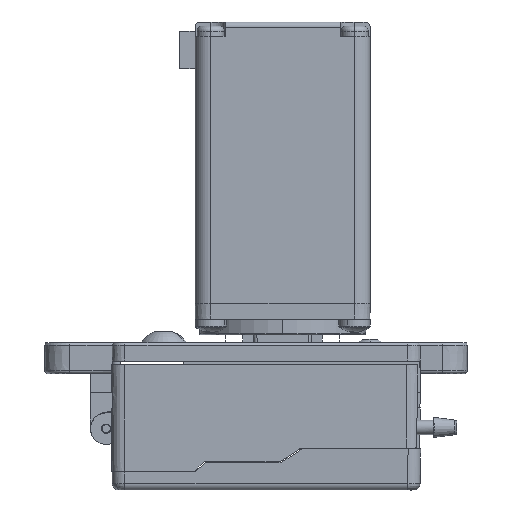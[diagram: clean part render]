
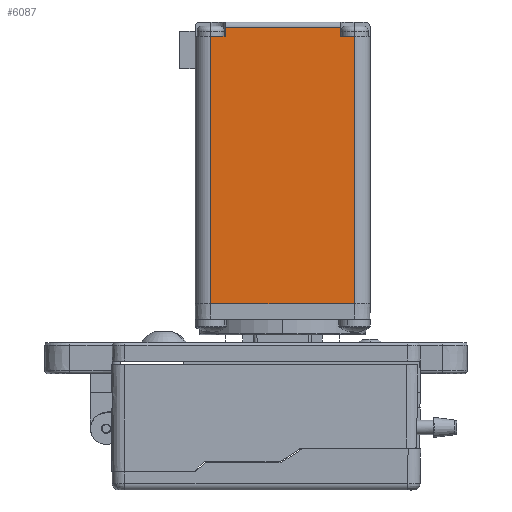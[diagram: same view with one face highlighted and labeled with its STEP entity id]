
A CAD part, left-side view. The second image highlights one B-rep face of the part: STEP entity #6087.
In plain terms, the highlighted planar face has unit normal (-1, 0, 0).
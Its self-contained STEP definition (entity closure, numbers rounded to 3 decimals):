
#108 = CARTESIAN_POINT ( 'NONE',  ( -14., 11.5, 43. ) ) ;
#329 = CARTESIAN_POINT ( 'NONE',  ( -14., 9.2, 44.5 ) ) ;
#336 = DIRECTION ( 'NONE',  ( 0., 1., 0. ) ) ;
#533 = EDGE_CURVE ( 'NONE', #24051, #18928, #5082, .T. ) ;
#1376 = LINE ( 'NONE', #16910, #5154 ) ;
#2023 = VECTOR ( 'NONE', #12858, 1000. ) ;
#2478 = VECTOR ( 'NONE', #6262, 1000. ) ;
#3119 = CARTESIAN_POINT ( 'NONE',  ( -14., 11.5, 43. ) ) ;
#4100 = ORIENTED_EDGE ( 'NONE', *, *, #21354, .F. ) ;
#4775 = LINE ( 'NONE', #12547, #24065 ) ;
#5082 = LINE ( 'NONE', #10546, #2023 ) ;
#5154 = VECTOR ( 'NONE', #11404, 1000. ) ;
#5614 = FACE_OUTER_BOUND ( 'NONE', #24934, .T. ) ;
#5868 = LINE ( 'NONE', #17230, #10638 ) ;
#6039 = DIRECTION ( 'NONE',  ( 0., 0., -1. ) ) ;
#6087 = ADVANCED_FACE ( 'NONE', ( #5614 ), #9568, .F. ) ;
#6165 = LINE ( 'NONE', #8075, #18701 ) ;
#6186 = LINE ( 'NONE', #108, #12780 ) ;
#6262 = DIRECTION ( 'NONE',  ( 0., -1., 0. ) ) ;
#6693 = ORIENTED_EDGE ( 'NONE', *, *, #22726, .T. ) ;
#7931 = CARTESIAN_POINT ( 'NONE',  ( -14., -11.5, 0.3 ) ) ;
#7997 = VERTEX_POINT ( 'NONE', #8691 ) ;
#8075 = CARTESIAN_POINT ( 'NONE',  ( -14., 11.5, 45.3 ) ) ;
#8229 = CARTESIAN_POINT ( 'NONE',  ( -14., -9.2, 44.5 ) ) ;
#8691 = CARTESIAN_POINT ( 'NONE',  ( -14., 11.5, 0.3 ) ) ;
#9392 = VERTEX_POINT ( 'NONE', #10059 ) ;
#9568 = PLANE ( 'NONE',  #24577 ) ;
#10059 = CARTESIAN_POINT ( 'NONE',  ( -14., 9.2, 43. ) ) ;
#10546 = CARTESIAN_POINT ( 'NONE',  ( -14., -9.2, 43. ) ) ;
#10638 = VECTOR ( 'NONE', #17101, 1000. ) ;
#11404 = DIRECTION ( 'NONE',  ( 0., 0., 1. ) ) ;
#11624 = CARTESIAN_POINT ( 'NONE',  ( -14., -9.2, 43. ) ) ;
#11850 = ORIENTED_EDGE ( 'NONE', *, *, #533, .T. ) ;
#12526 = ORIENTED_EDGE ( 'NONE', *, *, #18735, .F. ) ;
#12547 = CARTESIAN_POINT ( 'NONE',  ( -14., 9.2, 44.5 ) ) ;
#12780 = VECTOR ( 'NONE', #23296, 1000. ) ;
#12858 = DIRECTION ( 'NONE',  ( 0., 0., 1. ) ) ;
#12954 = VERTEX_POINT ( 'NONE', #329 ) ;
#12960 = EDGE_CURVE ( 'NONE', #20533, #7997, #6165, .T. ) ;
#13031 = CARTESIAN_POINT ( 'NONE',  ( -14., -11.5, 0.3 ) ) ;
#13375 = ORIENTED_EDGE ( 'NONE', *, *, #22552, .F. ) ;
#13398 = DIRECTION ( 'NONE',  ( 1., 0., 0. ) ) ;
#15960 = LINE ( 'NONE', #7931, #2478 ) ;
#16910 = CARTESIAN_POINT ( 'NONE',  ( -14., 9.2, 43. ) ) ;
#17101 = DIRECTION ( 'NONE',  ( 0., 0., -1. ) ) ;
#17230 = CARTESIAN_POINT ( 'NONE',  ( -14., -11.5, 45.3 ) ) ;
#18701 = VECTOR ( 'NONE', #6039, 1000. ) ;
#18735 = EDGE_CURVE ( 'NONE', #20533, #9392, #6186, .T. ) ;
#18928 = VERTEX_POINT ( 'NONE', #8229 ) ;
#19411 = DIRECTION ( 'NONE',  ( 0., -1., 0. ) ) ;
#19667 = ORIENTED_EDGE ( 'NONE', *, *, #23534, .T. ) ;
#20158 = VERTEX_POINT ( 'NONE', #21105 ) ;
#20351 = VECTOR ( 'NONE', #19411, 1000. ) ;
#20533 = VERTEX_POINT ( 'NONE', #3119 ) ;
#21086 = LINE ( 'NONE', #11624, #20351 ) ;
#21105 = CARTESIAN_POINT ( 'NONE',  ( -14., -11.5, 43. ) ) ;
#21175 = DIRECTION ( 'NONE',  ( 0., 0., -1. ) ) ;
#21354 = EDGE_CURVE ( 'NONE', #9392, #12954, #1376, .T. ) ;
#22552 = EDGE_CURVE ( 'NONE', #24051, #20158, #21086, .T. ) ;
#22726 = EDGE_CURVE ( 'NONE', #7997, #23995, #15960, .T. ) ;
#22972 = CARTESIAN_POINT ( 'NONE',  ( -14., -11.5, 45.3 ) ) ;
#22979 = CARTESIAN_POINT ( 'NONE',  ( -14., -9.2, 43. ) ) ;
#23121 = ORIENTED_EDGE ( 'NONE', *, *, #24057, .F. ) ;
#23296 = DIRECTION ( 'NONE',  ( 0., -1., 0. ) ) ;
#23534 = EDGE_CURVE ( 'NONE', #18928, #12954, #4775, .T. ) ;
#23655 = ORIENTED_EDGE ( 'NONE', *, *, #12960, .T. ) ;
#23995 = VERTEX_POINT ( 'NONE', #13031 ) ;
#24051 = VERTEX_POINT ( 'NONE', #22979 ) ;
#24057 = EDGE_CURVE ( 'NONE', #20158, #23995, #5868, .T. ) ;
#24065 = VECTOR ( 'NONE', #336, 1000. ) ;
#24577 = AXIS2_PLACEMENT_3D ( 'NONE', #22972, #13398, #21175 ) ;
#24934 = EDGE_LOOP ( 'NONE', ( #11850, #19667, #4100, #12526, #23655, #6693, #23121, #13375 ) ) ;
